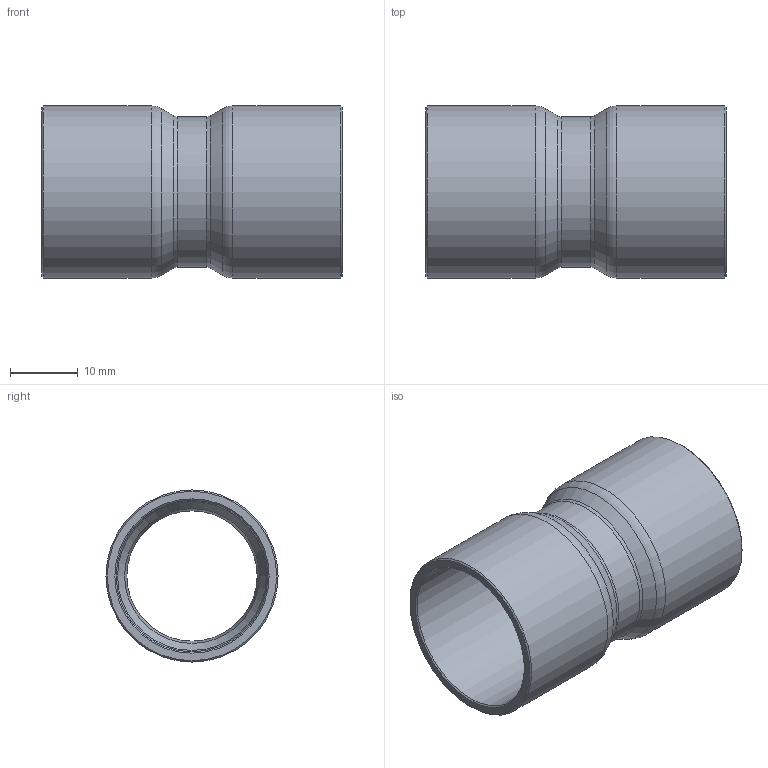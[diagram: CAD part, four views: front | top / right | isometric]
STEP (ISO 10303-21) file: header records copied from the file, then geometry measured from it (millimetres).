
FILE_DESCRIPTION((''),'2;1');
FILE_NAME('G:\SANHA-Ternat\Technik\Management\Bouwmaten + markeringen\z-maattekeningen 3D\29000s\2927078_3d.stp','2017-08-03T14:17:57',('vdvijverd'),(''),'Autodesk Inventor 2009','Autodesk Inventor 2009','');
FILE_SCHEMA(('AUTOMOTIVE_DESIGN { 1 0 10303 214 1 1 1 1 }'));
Length unit declared in the file: millimetre
Products named in the file (1): 2927078_3d
Bounding box: 44.3 x 25.4 x 25.4 mm (x, y, z)
Volume: 4970.3 mm3; surface area: 6784.9 mm2
Topology: 1 solids, 1 shells, 24 faces, 46 edges, 24 vertices
Faces by surface type: cone 8, cylinder 6, torus 4, bspline 4, plane 2
Full cylindrical faces by diameter (mm): 19.23 x1, 22.23 x1, 22.375 x2, 25.4 x2
Entity records: 674 total; most frequent: CARTESIAN_POINT 249, DIRECTION 90, ORIENTED_EDGE 48, EDGE_LOOP 48, AXIS2_PLACEMENT_3D 45, VERTEX_POINT 24, CIRCLE 24, EDGE_CURVE 24
